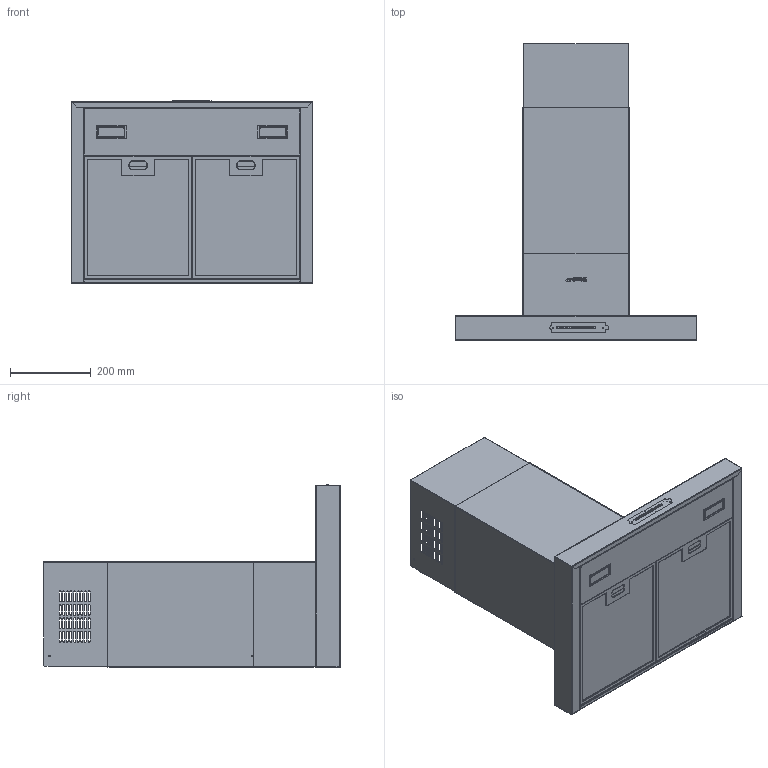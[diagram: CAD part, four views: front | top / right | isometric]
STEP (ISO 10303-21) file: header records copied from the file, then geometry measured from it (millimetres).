
FILE_DESCRIPTION(('CATIA V5 STEP Exchange'),'2;1');
FILE_NAME('C:\Users\linop\Desktop\doc\stp\KBT600MB.stp','2024-09-12T14:31:09+00:00',('none'),('none'),'CATIA Version 5-6 Release 2014','CATIA V5 STEP AP203','none');
FILE_SCHEMA(('CONFIG_CONTROL_DESIGN'));
Products named in the file (3): KBT600MB; Gruppo Camini T-Shape; Gruppo Pulsantiera
Assembly tree (11 placements, depth 3):
  KBT600MB
    #57  x2
    Gruppo Camini T-Shape
      #2992
      #20751
    #28511  x2
    #31519
    #40606
    Gruppo Pulsantiera
      #45861
Bounding box: 598 x 735.13 x 451.9 mm (x, y, z)
Volume: 1428881.7 mm3; surface area: 2995363 mm2
Topology: 11 solids, 11 shells, 1735 faces, 4781 edges, 3063 vertices
Faces by surface type: cylinder 797, plane 776, bspline 74, sphere 48, torus 24, cone 16
Entity records: 55257 total; most frequent: CARTESIAN_POINT 17164, ORIENTED_EDGE 8548, DIRECTION 6451, EDGE_CURVE 4274, VERTEX_POINT 2778, AXIS2_PLACEMENT_3D 2508, VECTOR 2440, LINE 2440
